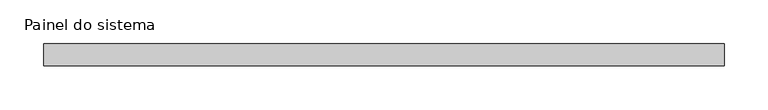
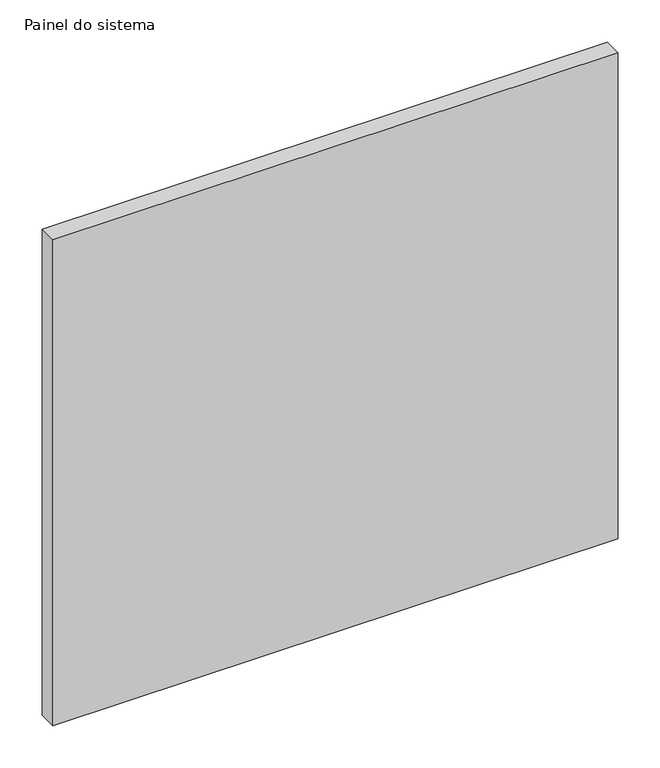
"""IFC4 building model written with IfcOpenShell, lengths in millimetres: plate geometry, Painel do sistema : Envidraçado."""

from ifc_helpers import new_model, si_unit, origin, origin_with_axes, place, context, project, spatial, polyline, outline, extrude, source, transform, mapped, element, save


def painel_do_sistema_21d2e3de(model_context):
    return source(origin(), model_context, "Body", "SweptSolid", [
        extrude(outline(polyline([(387.5, -49.5), (-387.5, -49.5), (-387.5, -24.5), (387.5, -24.5), (387.5, -49.5)])), origin_with_axes(), (0.0, 0.0, 1.0), 705.0),
    ])


if __name__ == "__main__":
    model = new_model("IFC4")
    model_context = context("Model", 3, world=origin())
    ifc_project = project(units=[si_unit("LENGTHUNIT", "METRE", prefix="MILLI")], contexts=[model_context])
    site = spatial("IfcSite", under=ifc_project)
    building = spatial("IfcBuilding", under=site)
    placement = place(None, origin())
    painel_do_sistema_shape = painel_do_sistema_21d2e3de(model_context)
    element("IfcPlate", 1, ObjectType="Painel do sistema : Envidraçado", at=placement, inside=building, context=model_context, shape_type="MappedRepresentation", body=[
        mapped(painel_do_sistema_shape, transform((0.0, 0.0, 0.0), x_axis=(1.0, 0.0, 0.0), y_axis=(0.0, 1.0, 0.0), z_axis=(0.0, 0.0, 1.0))),
    ])
    save(model, "model.ifc")
